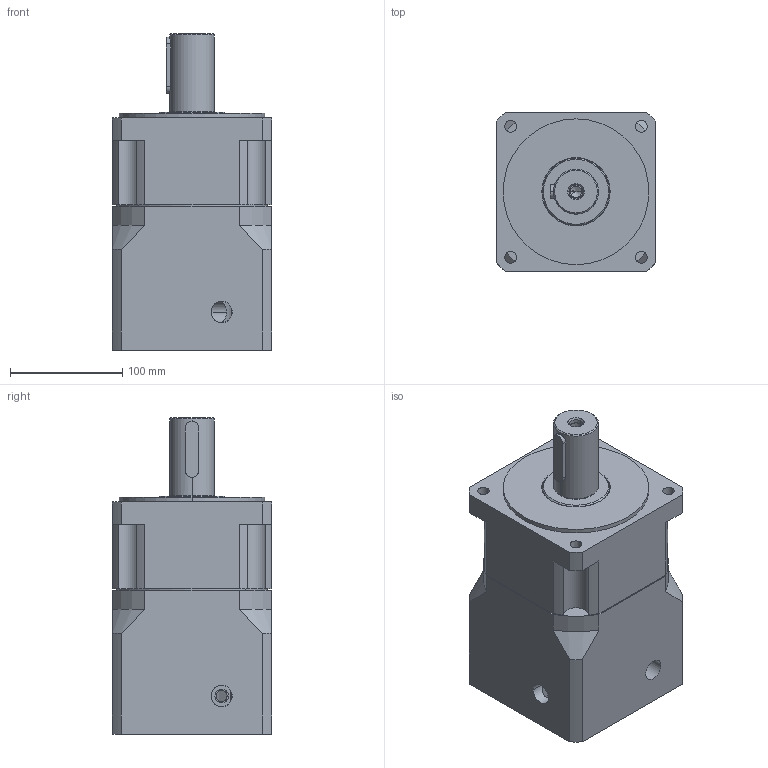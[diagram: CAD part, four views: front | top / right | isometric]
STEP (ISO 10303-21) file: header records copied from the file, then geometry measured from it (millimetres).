
FILE_DESCRIPTION (( 'STEP AP203' ), '1' );
FILE_NAME ('GNP150L1-24-110-145-M8.STEP', '2012-12-04T08:40:59', ( 'user' ), ( 'SYNNEX' ), 'SwSTEP 2.0', 'SolidWorks 2008', '' );
FILE_SCHEMA (( 'CONFIG_CONTROL_DESIGN' ));
Length unit declared in the file: millimetre
Products named in the file (1): GNP150L1-24-110-145-M8
Bounding box: 142 x 142 x 282 mm (x, y, z)
Volume: 2985715.4 mm3; surface area: 461945.4 mm2
Topology: 10 solids, 10 shells, 693 faces, 1671 edges, 1016 vertices
Faces by surface type: cylinder 329, plane 142, cone 134, torus 76, bspline 12
Entity records: 22420 total; most frequent: CARTESIAN_POINT 5816, DIRECTION 3762, ORIENTED_EDGE 3234, EDGE_CURVE 1617, AXIS2_PLACEMENT_3D 1583, VERTEX_POINT 1016, CIRCLE 901, EDGE_LOOP 847
